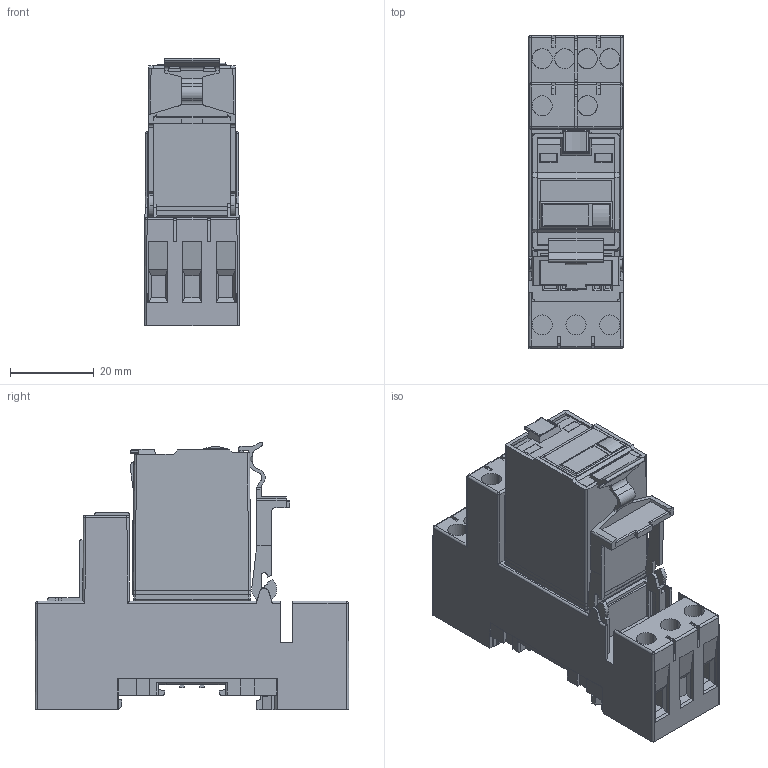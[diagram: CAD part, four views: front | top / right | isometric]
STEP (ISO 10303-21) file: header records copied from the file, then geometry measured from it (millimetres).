
FILE_DESCRIPTION (( 'STEP AP214' ), '1' );
FILE_NAME ('C7_plus_S7-IO.STEP', '2024-04-04T07:53:34', ( '' ), ( '' ), 'SwSTEP 2.0', 'SolidWorks 2022', '' );
FILE_SCHEMA (( 'AUTOMOTIVE_DESIGN' ));
Length unit declared in the file: millimetre
Products named in the file (1): C7_plus_S7-IO
Bounding box: 22.73 x 75.07 x 64.03 mm (x, y, z)
Volume: 61247.2 mm3; surface area: 20394.5 mm2
Topology: 1 solids, 34 shells, 1303 faces, 3524 edges, 2271 vertices
Faces by surface type: plane 1124, cylinder 153, sphere 14, bspline 10, torus 2
Entity records: 55240 total; most frequent: CARTESIAN_POINT 8498, ORIENTED_EDGE 7020, DIRECTION 6112, EDGE_CURVE 3510, LINE 3114, VECTOR 3114, VERTEX_POINT 2267, AXIS2_PLACEMENT_3D 1499
